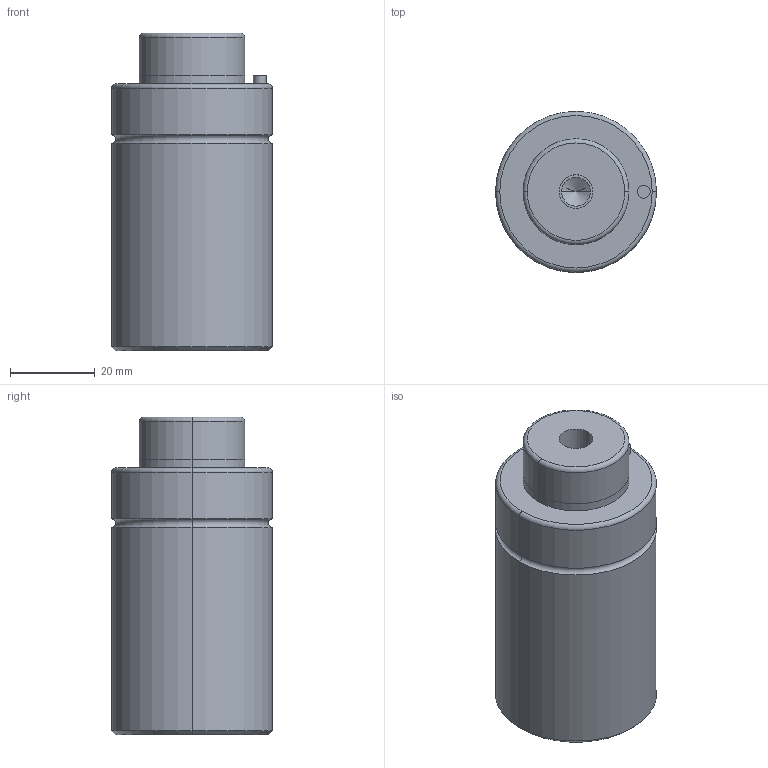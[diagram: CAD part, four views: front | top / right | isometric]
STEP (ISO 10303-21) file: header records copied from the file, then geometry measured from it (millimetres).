
FILE_DESCRIPTION(/* description */ (''),/* implementation_level */ '2;1');
FILE_NAME(/* name */ '3d_gsm38-10_03936_r00.stp',/* time_stamp */ '2011-01-10T14:15:16+09:00',/* author */ ('MISUMI'),/* organization */ (''),/* preprocessor_version */ 'ST-DEVELOPER v11',/* originating_system */ 'UGS - NX 5.0',/* authorisation */ '');
FILE_SCHEMA (('CONFIG_CONTROL_DESIGN'));
Length unit declared in the file: millimetre
Products named in the file (1): 3d_gsm38-10_03936_r00
Bounding box: 38 x 38 x 75 mm (x, y, z)
Volume: 75284.5 mm3; surface area: 11708.9 mm2
Topology: 1 solids, 1 shells, 50 faces, 106 edges, 60 vertices
Faces by surface type: cylinder 26, cone 10, plane 8, torus 6
Entity records: 1382 total; most frequent: DIRECTION 262, CARTESIAN_POINT 209, ORIENTED_EDGE 196, AXIS2_PLACEMENT_3D 113, EDGE_CURVE 98, CIRCLE 62, EDGE_LOOP 60, VERTEX_POINT 60
